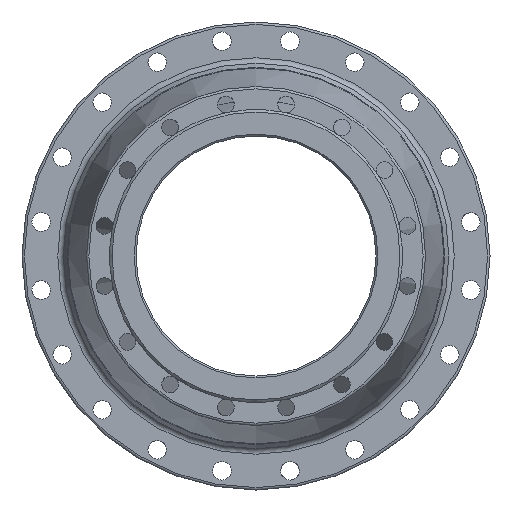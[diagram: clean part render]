
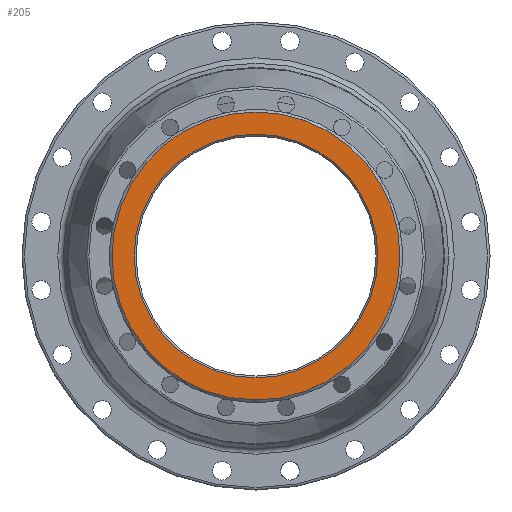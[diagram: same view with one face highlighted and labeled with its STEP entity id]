
A CAD part, left-side view. The second image highlights one B-rep face of the part: STEP entity #205.
In plain terms, the highlighted planar face has unit normal (-1, 0, 0).
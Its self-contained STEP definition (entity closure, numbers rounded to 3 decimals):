
#205 = ADVANCED_FACE ( 'NONE', ( #1538, #1865 ), #1849, .F. ) ;
#213 = DIRECTION ( 'NONE',  ( 1., 0., 0. ) ) ;
#434 = AXIS2_PLACEMENT_3D ( 'NONE', #3260, #3018, #2210 ) ;
#764 = CARTESIAN_POINT ( 'NONE',  ( 0., 0., 0. ) ) ;
#1203 = EDGE_CURVE ( 'NONE', #2014, #2014, #2959, .T. ) ;
#1239 = CARTESIAN_POINT ( 'NONE',  ( 0., 0., -203. ) ) ;
#1431 = CIRCLE ( 'NONE', #3184, 203. ) ;
#1538 = FACE_BOUND ( 'NONE', #2226, .T. ) ;
#1579 = DIRECTION ( 'NONE',  ( 1., 0., 0. ) ) ;
#1623 = ORIENTED_EDGE ( 'NONE', *, *, #3466, .T. ) ;
#1849 = PLANE ( 'NONE',  #2961 ) ;
#1865 = FACE_OUTER_BOUND ( 'NONE', #3040, .T. ) ;
#1983 = CARTESIAN_POINT ( 'NONE',  ( 0., 0., 240. ) ) ;
#1995 = DIRECTION ( 'NONE',  ( 0., 0., -1. ) ) ;
#2014 = VERTEX_POINT ( 'NONE', #1983 ) ;
#2210 = DIRECTION ( 'NONE',  ( 0., 0., 1. ) ) ;
#2226 = EDGE_LOOP ( 'NONE', ( #1623 ) ) ;
#2660 = CARTESIAN_POINT ( 'NONE',  ( 0., 200., 0. ) ) ;
#2896 = VERTEX_POINT ( 'NONE', #1239 ) ;
#2959 = CIRCLE ( 'NONE', #434, 240. ) ;
#2961 = AXIS2_PLACEMENT_3D ( 'NONE', #2660, #1579, #3193 ) ;
#3018 = DIRECTION ( 'NONE',  ( -1., 0., 0. ) ) ;
#3040 = EDGE_LOOP ( 'NONE', ( #3341 ) ) ;
#3184 = AXIS2_PLACEMENT_3D ( 'NONE', #764, #213, #1995 ) ;
#3193 = DIRECTION ( 'NONE',  ( 0., 0., -1. ) ) ;
#3260 = CARTESIAN_POINT ( 'NONE',  ( 0., 0., 0. ) ) ;
#3341 = ORIENTED_EDGE ( 'NONE', *, *, #1203, .T. ) ;
#3466 = EDGE_CURVE ( 'NONE', #2896, #2896, #1431, .T. ) ;
